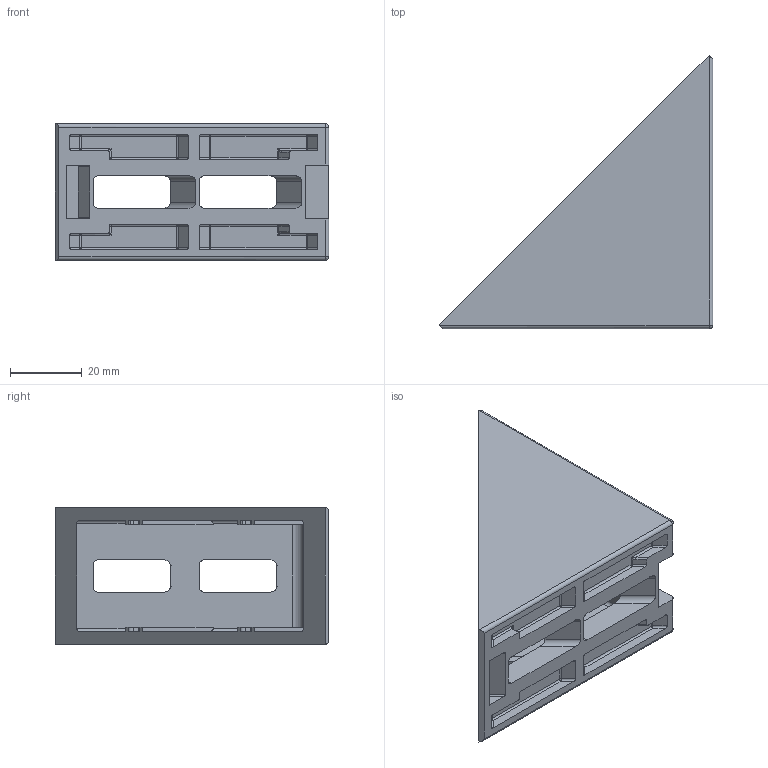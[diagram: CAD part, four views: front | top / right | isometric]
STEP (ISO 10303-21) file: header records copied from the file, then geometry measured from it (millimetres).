
FILE_DESCRIPTION (( 'STEP AP214' ), '1' );
FILE_NAME ('6.04.sp48.STEP', '2015-05-31T08:06:58', ( '' ), ( '' ), 'SwSTEP 2.0', 'SolidWorks 2015', '' );
FILE_SCHEMA (( 'AUTOMOTIVE_DESIGN' ));
Length unit declared in the file: millimetre
Products named in the file (1): 6.04.sp48
Bounding box: 76 x 76 x 38 mm (x, y, z)
Volume: 40493.1 mm3; surface area: 22620.1 mm2
Topology: 1 solids, 1 shells, 350 faces, 880 edges, 525 vertices
Faces by surface type: cylinder 141, plane 126, bspline 83
Entity records: 11272 total; most frequent: CARTESIAN_POINT 3407, ORIENTED_EDGE 1724, DIRECTION 1560, EDGE_CURVE 862, AXIS2_PLACEMENT_3D 540, VERTEX_POINT 525, VECTOR 480, LINE 480
